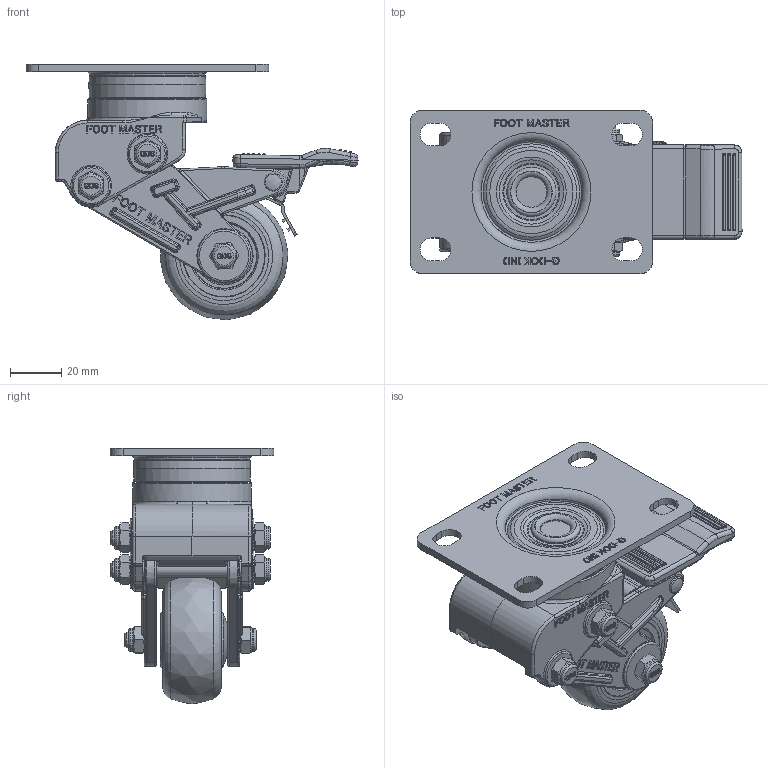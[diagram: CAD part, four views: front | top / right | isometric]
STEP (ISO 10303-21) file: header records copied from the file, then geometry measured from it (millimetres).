
FILE_DESCRIPTION(/* description */ (''),/* implementation_level */ '2;1');
FILE_NAME(/* name */ 'C:\Users\admin\Desktop\JYS\개발품\상세설계_20220328\홈페이지용 도면\GDS-50-BSF-EUS-PUS.stp',/* time_stamp */ '2023-03-08T15:51:37+09:00',/* author */ ('admin'),/* organization */ (''),/* preprocessor_version */ 'ST-DEVELOPER v18.1',/* originating_system */ 'Autodesk Inventor 2021',/* authorisation */ '');
FILE_SCHEMA (('AUTOMOTIVE_DESIGN { 1 0 10303 214 3 1 1 }'));
Products named in the file (1): GDS-50_BSF_(US)_REV01_Shrinkwrap_1
Bounding box: 129.93 x 64 x 99.97 mm (x, y, z)
Volume: 146415.7 mm3; surface area: 63274.2 mm2
Topology: 1 solids, 1 shells, 2697 faces, 6959 edges, 4367 vertices
Faces by surface type: plane 938, bspline 836, cylinder 545, cone 166, torus 160, sphere 52
Full cylindrical faces by diameter (mm): 2 x1, 4 x3, 6 x5, 7 x2, 8.8 x3, 9 x6, 12 x1, 17.216 x2, 18 x1, 19.3 x1, 20 x2, 22 x2, 22.784 x2, 30 x1, 42.5 x1, 46.5 x1
Entity records: 94152 total; most frequent: CARTESIAN_POINT 30114, ORIENTED_EDGE 13842, DIRECTION 11024, EDGE_CURVE 6921, VERTEX_POINT 4367, AXIS2_PLACEMENT_3D 3887, LINE 3250, VECTOR 3250
